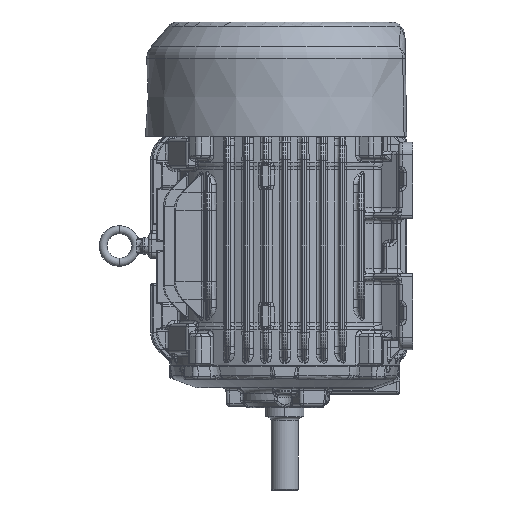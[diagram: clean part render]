
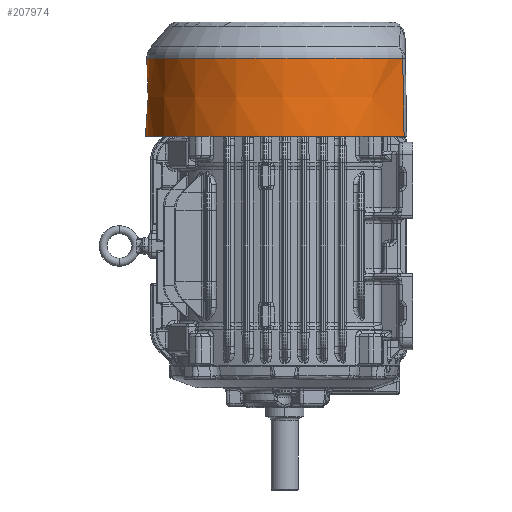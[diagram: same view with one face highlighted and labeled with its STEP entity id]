
A CAD part, left-side view. The second image highlights one B-rep face of the part: STEP entity #207974.
In plain terms, the highlighted conical face has half-angle 1 degrees and reference radius 144.442 mm.
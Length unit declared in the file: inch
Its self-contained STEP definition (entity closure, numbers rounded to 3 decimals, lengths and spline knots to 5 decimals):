
#204012=CARTESIAN_POINT('',(-2.9537,-4.89206,0.));
#204024=CARTESIAN_POINT('',(2.9537,-4.89206,0.));
#204030=CARTESIAN_POINT('',(-2.94015,-4.83504,
-3.19811));
#204031=CARTESIAN_POINT('',(-2.94164,-4.84129,
-2.84735));
#204032=CARTESIAN_POINT('',(-2.94461,-4.85382,
-2.14348));
#204033=CARTESIAN_POINT('',(-2.94888,-4.87175,
-1.13907));
#204034=CARTESIAN_POINT('',(-2.95206,-4.88516,
-0.38695));
#204035=CARTESIAN_POINT('',(-2.9537,-4.89206,0.));
#204037=CARTESIAN_POINT('',(0.,0.,-3.19811));
#204038=DIRECTION('',(0.,0.,-1.));
#204039=DIRECTION('',(-0.52,-0.854,0.));
#204040=AXIS2_PLACEMENT_3D('',#204037,#204038,#204039);
#204042=CARTESIAN_POINT('',(2.9537,-4.89206,0.));
#204043=CARTESIAN_POINT('',(2.95268,-4.88775,
-0.24197));
#204044=CARTESIAN_POINT('',(2.95058,-4.87893,
-0.73631));
#204045=CARTESIAN_POINT('',(2.94734,-4.86529,
-1.50131));
#204046=CARTESIAN_POINT('',(2.9439,-4.85081,
-2.31281));
#204047=CARTESIAN_POINT('',(2.94142,-4.8404,
-2.89654));
#204048=CARTESIAN_POINT('',(2.94014,-4.83501,
-3.19811));
#204050=CARTESIAN_POINT('',(0.,0.,0.));
#204051=DIRECTION('',(0.,0.,1.));
#204052=DIRECTION('',(0.517,-0.856,0.));
#204053=AXIS2_PLACEMENT_3D('',#204050,#204051,#204052);
#207089=VERTEX_POINT('',#204012);
#207092=VERTEX_POINT('',#204030);
#207100=CARTESIAN_POINT('',(2.94006,-4.83506,
-3.19811));
#207101=VERTEX_POINT('',#207100);
#207103=VERTEX_POINT('',#204024);
#207961=CARTESIAN_POINT('',(0.,0.,-1.59906));
#207962=DIRECTION('',(0.,0.,1.));
#207963=DIRECTION('',(0.,1.,0.));
#207964=AXIS2_PLACEMENT_3D('',#207961,#207962,#207963);
#207965=CONICAL_SURFACE('',#207964,5.68669,1.);
#207966=ORIENTED_EDGE('',*,*,#207942,.F.);
#207968=ORIENTED_EDGE('',*,*,#207967,.T.);
#207970=ORIENTED_EDGE('',*,*,#207969,.F.);
#207971=ORIENTED_EDGE('',*,*,#207953,.T.);
#207972=EDGE_LOOP('',(#207966,#207968,#207970,#207971));
#207973=FACE_OUTER_BOUND('',#207972,.F.);
#207974=ADVANCED_FACE('',(#207973),#207965,.T.);
#204036=B_SPLINE_CURVE_WITH_KNOTS('',3,(#204030,#204031,#204032,#204033,#204034,
#204035),.UNSPECIFIED.,.F.,.F.,(4,1,1,4),(0.,0.33333,
0.66667,1.),.UNSPECIFIED.);
#204041=CIRCLE('',#204040,5.65878);
#204049=B_SPLINE_CURVE_WITH_KNOTS('',3,(#204042,#204043,#204044,#204045,#204046,
#204047,#204048),.UNSPECIFIED.,.F.,.F.,(4,1,1,1,4),(0.,0.25,0.5,0.75,
1.),.UNSPECIFIED.);
#204054=CIRCLE('',#204053,5.7146);
#207942=EDGE_CURVE('',#207092,#207089,#204036,.T.);
#207953=EDGE_CURVE('',#207103,#207089,#204054,.T.);
#207967=EDGE_CURVE('',#207092,#207101,#204041,.T.);
#207969=EDGE_CURVE('',#207103,#207101,#204049,.T.);
